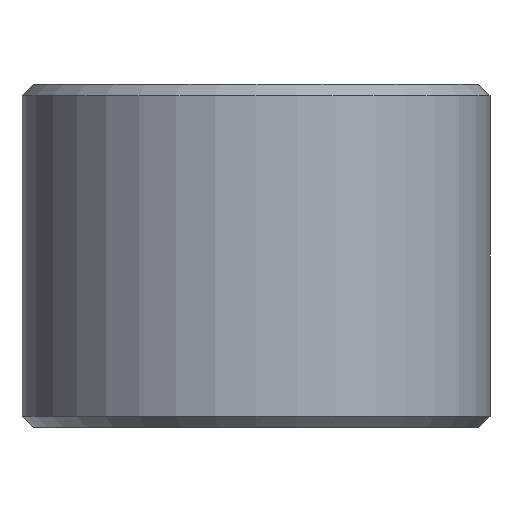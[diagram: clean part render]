
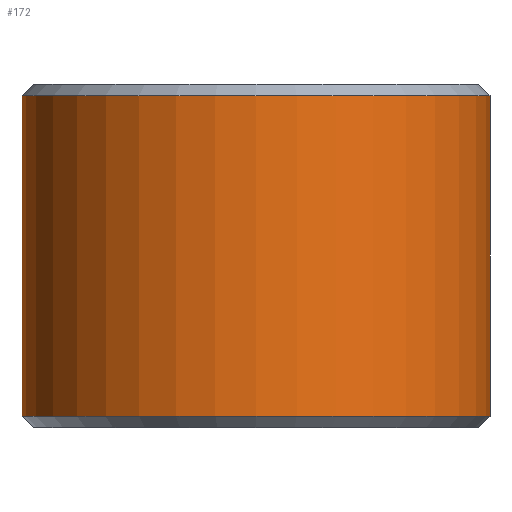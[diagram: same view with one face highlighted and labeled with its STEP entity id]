
A CAD part, front view. The second image highlights one B-rep face of the part: STEP entity #172.
In plain terms, the highlighted cylindrical face has radius 22.5 mm (diameter 45 mm), a partial arc.
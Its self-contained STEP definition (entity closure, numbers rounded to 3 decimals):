
#40 = EDGE_CURVE ( 'NONE', #321, #290, #89, .T. ) ;
#54 = CYLINDRICAL_SURFACE ( 'NONE', #146, 22.5 ) ;
#58 = DIRECTION ( 'NONE',  ( 0., 0., 1. ) ) ;
#69 = CARTESIAN_POINT ( 'NONE',  ( -22.5, 0., 15.4 ) ) ;
#89 = LINE ( 'NONE', #336, #107 ) ;
#99 = CARTESIAN_POINT ( 'NONE',  ( 22.5, 0., 16.5 ) ) ;
#107 = VECTOR ( 'NONE', #366, 1000. ) ;
#124 = DIRECTION ( 'NONE',  ( 0., 0., -1. ) ) ;
#126 = ORIENTED_EDGE ( 'NONE', *, *, #218, .T. ) ;
#134 = DIRECTION ( 'NONE',  ( 1., 0., 0. ) ) ;
#137 = EDGE_CURVE ( 'NONE', #290, #256, #222, .T. ) ;
#139 = CARTESIAN_POINT ( 'NONE',  ( 0., 0., 15.4 ) ) ;
#141 = AXIS2_PLACEMENT_3D ( 'NONE', #139, #385, #356 ) ;
#146 = AXIS2_PLACEMENT_3D ( 'NONE', #440, #124, #407 ) ;
#162 = VERTEX_POINT ( 'NONE', #378 ) ;
#172 = ADVANCED_FACE ( 'NONE', ( #369 ), #54, .T. ) ;
#176 = CARTESIAN_POINT ( 'NONE',  ( -22.5, 0., -15.4 ) ) ;
#218 = EDGE_CURVE ( 'NONE', #162, #321, #277, .T. ) ;
#222 = CIRCLE ( 'NONE', #304, 22.5 ) ;
#245 = ORIENTED_EDGE ( 'NONE', *, *, #137, .T. ) ;
#256 = VERTEX_POINT ( 'NONE', #279 ) ;
#274 = LINE ( 'NONE', #99, #311 ) ;
#277 = CIRCLE ( 'NONE', #141, 22.5 ) ;
#279 = CARTESIAN_POINT ( 'NONE',  ( 22.5, 0., -15.4 ) ) ;
#281 = EDGE_LOOP ( 'NONE', ( #323, #126, #360, #245 ) ) ;
#290 = VERTEX_POINT ( 'NONE', #176 ) ;
#304 = AXIS2_PLACEMENT_3D ( 'NONE', #414, #58, #134 ) ;
#311 = VECTOR ( 'NONE', #419, 1000. ) ;
#321 = VERTEX_POINT ( 'NONE', #69 ) ;
#323 = ORIENTED_EDGE ( 'NONE', *, *, #387, .F. ) ;
#336 = CARTESIAN_POINT ( 'NONE',  ( -22.5, 0., 16.5 ) ) ;
#356 = DIRECTION ( 'NONE',  ( 1., 0., 0. ) ) ;
#360 = ORIENTED_EDGE ( 'NONE', *, *, #40, .T. ) ;
#366 = DIRECTION ( 'NONE',  ( 0., 0., -1. ) ) ;
#369 = FACE_OUTER_BOUND ( 'NONE', #281, .T. ) ;
#378 = CARTESIAN_POINT ( 'NONE',  ( 22.5, 0., 15.4 ) ) ;
#385 = DIRECTION ( 'NONE',  ( 0., 0., -1. ) ) ;
#387 = EDGE_CURVE ( 'NONE', #162, #256, #274, .T. ) ;
#407 = DIRECTION ( 'NONE',  ( -1., 0., 0. ) ) ;
#414 = CARTESIAN_POINT ( 'NONE',  ( 0., 0., -15.4 ) ) ;
#419 = DIRECTION ( 'NONE',  ( 0., 0., -1. ) ) ;
#440 = CARTESIAN_POINT ( 'NONE',  ( 0., 0., 16.5 ) ) ;
